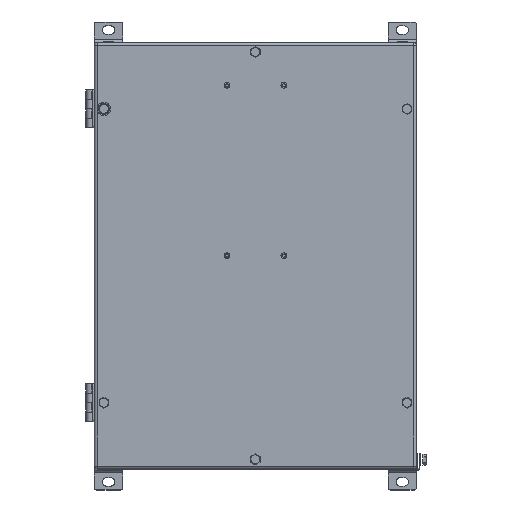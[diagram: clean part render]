
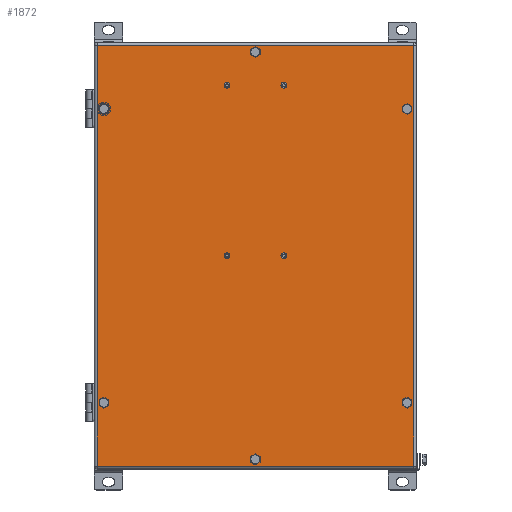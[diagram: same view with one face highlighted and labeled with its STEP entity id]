
A CAD part, top view. The second image highlights one B-rep face of the part: STEP entity #1872.
In plain terms, the highlighted planar face has unit normal (0, 0, 1).
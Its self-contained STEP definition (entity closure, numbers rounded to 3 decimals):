
#1280=CARTESIAN_POINT('',(167.,-222.,150.));
#1281=VERTEX_POINT('',#1280);
#1347=CARTESIAN_POINT('',(167.,222.,150.));
#1348=VERTEX_POINT('',#1347);
#1414=CARTESIAN_POINT('',(-167.,-222.,150.));
#1415=VERTEX_POINT('',#1414);
#1487=CARTESIAN_POINT('',(167.,-222.,150.));
#1488=DIRECTION('',(-1.0,0.0,0.0));
#1489=VECTOR('',#1488,334.);
#1490=LINE('',#1487,#1489);
#1491=EDGE_CURVE('',#1281,#1415,#1490,.T.);
#1503=CARTESIAN_POINT('',(-167.0,222.,150.));
#1504=VERTEX_POINT('',#1503);
#1576=CARTESIAN_POINT('',(-167.,-222.0,150.));
#1577=DIRECTION('',(0.0,1.0,0.0));
#1578=VECTOR('',#1577,444.0);
#1579=LINE('',#1576,#1578);
#1580=EDGE_CURVE('',#1415,#1504,#1579,.T.);
#1598=CARTESIAN_POINT('',(-167.0,222.,150.));
#1599=DIRECTION('',(1.0,0.0,0.0));
#1600=VECTOR('',#1599,334.);
#1601=LINE('',#1598,#1600);
#1602=EDGE_CURVE('',#1504,#1348,#1601,.T.);
#1620=CARTESIAN_POINT('',(167.,222.0,150.));
#1621=DIRECTION('',(0.0,-1.0,0.0));
#1622=VECTOR('',#1621,444.0);
#1623=LINE('',#1620,#1622);
#1624=EDGE_CURVE('',#1348,#1281,#1623,.T.);
#1751=CARTESIAN_POINT('',(0.,0.,150.));
#1752=DIRECTION('',(0.0,0.0,1.0));
#1753=DIRECTION('',(1.0,0.0,0.0));
#1754=AXIS2_PLACEMENT_3D('',#1751,#1752,#1753);
#1755=PLANE('',#1754);
#1756=ORIENTED_EDGE('',*,*,#1491,.F.);
#1757=ORIENTED_EDGE('',*,*,#1624,.F.);
#1758=ORIENTED_EDGE('',*,*,#1602,.F.);
#1759=ORIENTED_EDGE('',*,*,#1580,.F.);
#1760=EDGE_LOOP('',(#1756,#1757,#1758,#1759));
#1761=FACE_OUTER_BOUND('',#1760,.T.);
#1762=CARTESIAN_POINT('',(-156.25,155.,150.));
#1763=VERTEX_POINT('',#1762);
#1764=CARTESIAN_POINT('',(-160.0,155.,150.));
#1765=DIRECTION('',(0.0,0.0,-1.0));
#1766=DIRECTION('',(-1.0,0.0,0.0));
#1767=AXIS2_PLACEMENT_3D('',#1764,#1765,#1766);
#1768=CIRCLE('',#1767,3.75);
#1769=EDGE_CURVE('',#1763,#1763,#1768,.T.);
#1770=ORIENTED_EDGE('',*,*,#1769,.T.);
#1771=EDGE_LOOP('',(#1770));
#1772=FACE_BOUND('',#1771,.T.);
#1773=CARTESIAN_POINT('',(163.75,155.0,150.));
#1774=VERTEX_POINT('',#1773);
#1775=CARTESIAN_POINT('',(160.0,155.0,150.));
#1776=DIRECTION('',(0.0,0.0,-1.0));
#1777=DIRECTION('',(-1.0,0.0,0.0));
#1778=AXIS2_PLACEMENT_3D('',#1775,#1776,#1777);
#1779=CIRCLE('',#1778,3.75);
#1780=EDGE_CURVE('',#1774,#1774,#1779,.T.);
#1781=ORIENTED_EDGE('',*,*,#1780,.T.);
#1782=EDGE_LOOP('',(#1781));
#1783=FACE_BOUND('',#1782,.T.);
#1784=CARTESIAN_POINT('',(-156.25,-155.,150.));
#1785=VERTEX_POINT('',#1784);
#1786=CARTESIAN_POINT('',(-160.,-155.,150.));
#1787=DIRECTION('',(0.0,0.0,-1.0));
#1788=DIRECTION('',(-1.0,0.0,0.0));
#1789=AXIS2_PLACEMENT_3D('',#1786,#1787,#1788);
#1790=CIRCLE('',#1789,3.75);
#1791=EDGE_CURVE('',#1785,#1785,#1790,.T.);
#1792=ORIENTED_EDGE('',*,*,#1791,.T.);
#1793=EDGE_LOOP('',(#1792));
#1794=FACE_BOUND('',#1793,.T.);
#1795=CARTESIAN_POINT('',(163.75,-155.0,150.));
#1796=VERTEX_POINT('',#1795);
#1797=CARTESIAN_POINT('',(160.,-155.0,150.));
#1798=DIRECTION('',(0.0,0.0,-1.0));
#1799=DIRECTION('',(-1.0,0.0,0.0));
#1800=AXIS2_PLACEMENT_3D('',#1797,#1798,#1799);
#1801=CIRCLE('',#1800,3.75);
#1802=EDGE_CURVE('',#1796,#1796,#1801,.T.);
#1803=ORIENTED_EDGE('',*,*,#1802,.T.);
#1804=EDGE_LOOP('',(#1803));
#1805=FACE_BOUND('',#1804,.T.);
#1806=CARTESIAN_POINT('',(3.75,215.,150.));
#1807=VERTEX_POINT('',#1806);
#1808=CARTESIAN_POINT('',(0.,215.,150.));
#1809=DIRECTION('',(0.0,0.0,-1.0));
#1810=DIRECTION('',(-1.0,0.0,0.0));
#1811=AXIS2_PLACEMENT_3D('',#1808,#1809,#1810);
#1812=CIRCLE('',#1811,3.75);
#1813=EDGE_CURVE('',#1807,#1807,#1812,.T.);
#1814=ORIENTED_EDGE('',*,*,#1813,.T.);
#1815=EDGE_LOOP('',(#1814));
#1816=FACE_BOUND('',#1815,.T.);
#1817=CARTESIAN_POINT('',(3.75,-215.,150.));
#1818=VERTEX_POINT('',#1817);
#1819=CARTESIAN_POINT('',(0.,-215.,150.));
#1820=DIRECTION('',(0.0,0.0,-1.0));
#1821=DIRECTION('',(-1.0,0.0,0.0));
#1822=AXIS2_PLACEMENT_3D('',#1819,#1820,#1821);
#1823=CIRCLE('',#1822,3.75);
#1824=EDGE_CURVE('',#1818,#1818,#1823,.T.);
#1825=ORIENTED_EDGE('',*,*,#1824,.T.);
#1826=EDGE_LOOP('',(#1825));
#1827=FACE_BOUND('',#1826,.T.);
#1828=CARTESIAN_POINT('',(33.05,180.,150.));
#1829=VERTEX_POINT('',#1828);
#1830=CARTESIAN_POINT('',(30.,180.,150.));
#1831=DIRECTION('',(0.0,0.0,-1.0));
#1832=DIRECTION('',(-1.0,0.0,0.0));
#1833=AXIS2_PLACEMENT_3D('',#1830,#1831,#1832);
#1834=CIRCLE('',#1833,3.05);
#1835=EDGE_CURVE('',#1829,#1829,#1834,.T.);
#1836=ORIENTED_EDGE('',*,*,#1835,.T.);
#1837=EDGE_LOOP('',(#1836));
#1838=FACE_BOUND('',#1837,.T.);
#1839=CARTESIAN_POINT('',(-26.95,180.,150.));
#1840=VERTEX_POINT('',#1839);
#1841=CARTESIAN_POINT('',(-30.,180.,150.));
#1842=DIRECTION('',(0.0,0.0,-1.0));
#1843=DIRECTION('',(-1.0,0.0,0.0));
#1844=AXIS2_PLACEMENT_3D('',#1841,#1842,#1843);
#1845=CIRCLE('',#1844,3.05);
#1846=EDGE_CURVE('',#1840,#1840,#1845,.T.);
#1847=ORIENTED_EDGE('',*,*,#1846,.T.);
#1848=EDGE_LOOP('',(#1847));
#1849=FACE_BOUND('',#1848,.T.);
#1850=CARTESIAN_POINT('',(-26.95,0.,150.));
#1851=VERTEX_POINT('',#1850);
#1852=CARTESIAN_POINT('',(-30.,0.,150.));
#1853=DIRECTION('',(0.0,0.0,-1.0));
#1854=DIRECTION('',(-1.0,0.0,0.0));
#1855=AXIS2_PLACEMENT_3D('',#1852,#1853,#1854);
#1856=CIRCLE('',#1855,3.05);
#1857=EDGE_CURVE('',#1851,#1851,#1856,.T.);
#1858=ORIENTED_EDGE('',*,*,#1857,.T.);
#1859=EDGE_LOOP('',(#1858));
#1860=FACE_BOUND('',#1859,.T.);
#1861=CARTESIAN_POINT('',(33.05,0.,150.));
#1862=VERTEX_POINT('',#1861);
#1863=CARTESIAN_POINT('',(30.,0.,150.));
#1864=DIRECTION('',(0.0,0.0,-1.0));
#1865=DIRECTION('',(-1.0,0.0,0.0));
#1866=AXIS2_PLACEMENT_3D('',#1863,#1864,#1865);
#1867=CIRCLE('',#1866,3.05);
#1868=EDGE_CURVE('',#1862,#1862,#1867,.T.);
#1869=ORIENTED_EDGE('',*,*,#1868,.T.);
#1870=EDGE_LOOP('',(#1869));
#1871=FACE_BOUND('',#1870,.T.);
#1872=ADVANCED_FACE('',(#1761,#1772,#1783,#1794,#1805,#1816,#1827,#1838,#1849,#1860,#1871),#1755,.T.);
